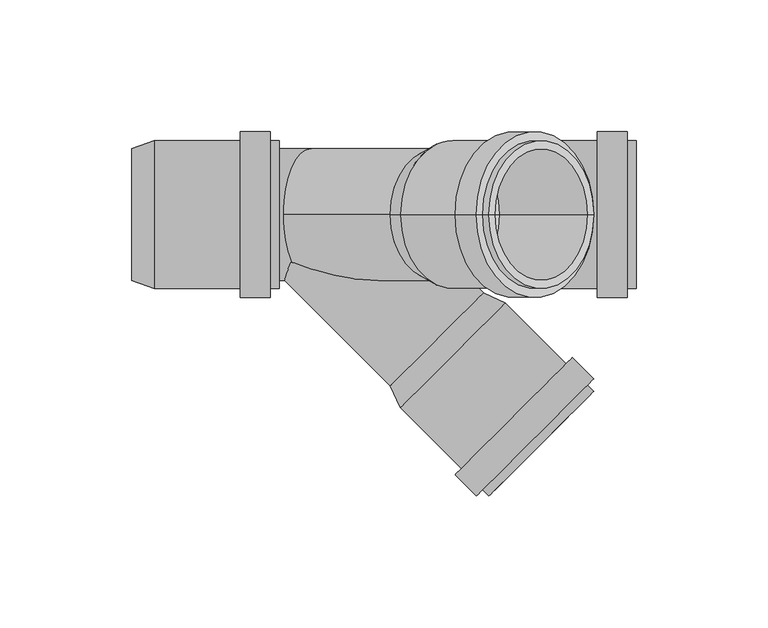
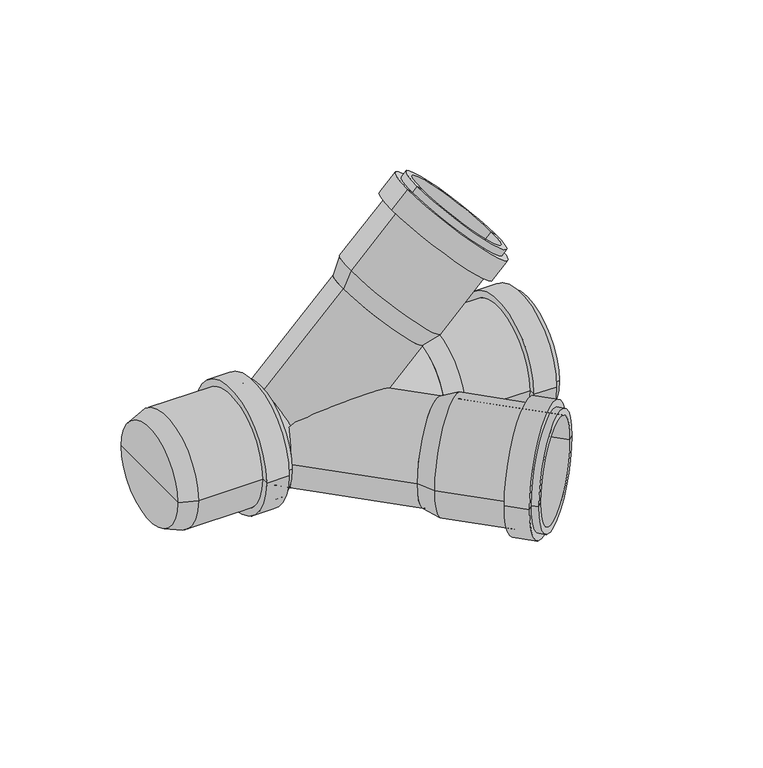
"""IFC4 building model written with IfcOpenShell, lengths in millimetres: pipe fitting geometry, pf_HTED : pf_HTED."""

from ifc_helpers import new_model, si_unit, point, frame, origin, origin_2d, place, context, project, spatial, polyline, circle_curve, trimmed, segment, composite_curve, outline, extrude, source, transform, mapped, element, save
from ifc_brep_helpers import plane_surface, cylinder_surface, revolved_surface, advanced_brep


def pipe_fitting_739406a7(model_context):
    return source(origin(), model_context, "Body", "SolidModel", [
        advanced_brep(
        [(65.1245345, 0.0, 29.7691955), (29.7691955, 0.0, 65.1245345), (33.5875721, 0.0, 73.3269732), (73.3269732, 0.0, 33.5875721), (47.446865, 0.0, 47.446865), (106.9145453, 0.0, 67.1751442), (67.1751442, 0.0, 106.9145453), (69.3671752, 0.0, 104.7225143), (104.7225143, 0.0, 69.3671752), (104.5103823, 0.0, 64.7709812), (64.7709812, 0.0, 104.5103823), (106.9145453, 0.0, 62.3668181), (62.3668181, 0.0, 106.9145453), (98.853528, 0.0, 54.3058008), (54.3058008, 0.0, 98.853528), (96.449365, 0.0, 56.7099639), (56.7099639, 0.0, 96.449365), (71.1349422, 0.0, 35.7796031), (35.7796031, 0.0, 71.1349422), (53.4572727, 0.0, 53.4572727)],
        [
            (0, 1, circle_curve(frame((47.446865, 0.0, 47.446865), z_axis=(0.707106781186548, 0.0, 0.7071067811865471), x_axis=(-0.7071067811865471, 0.0, 0.707106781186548)), 25.0)),
            (1, 2),
            (2, 3, circle_curve(frame((53.4572727, 0.0, 53.4572727), z_axis=(-0.707106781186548, 0.0, -0.7071067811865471), x_axis=(-0.7071067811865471, 0.0, 0.707106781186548)), 28.1)),
            (3, 0),
            (1, 0, circle_curve(frame((47.446865, 0.0, 47.446865), z_axis=(0.707106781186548, 0.0, 0.7071067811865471), x_axis=(-0.7071067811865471, 0.0, 0.707106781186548)), 25.0)),
            (3, 2, circle_curve(frame((53.4572727, 0.0, 53.4572727), z_axis=(-0.707106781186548, 0.0, -0.7071067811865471), x_axis=(-0.7071067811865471, 0.0, 0.707106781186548)), 28.1)),
            (4, 1),
            (0, 4),
            (5, 6, circle_curve(frame((87.0448448, 0.0, 87.0448448), z_axis=(0.707106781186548, 0.0, 0.7071067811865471), x_axis=(-0.7071067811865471, 0.0, 0.707106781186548)), 28.1)),
            (6, 7),
            (7, 8, circle_curve(frame((87.0448448, 0.0, 87.0448448), z_axis=(-0.707106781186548, 0.0, -0.7071067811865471), x_axis=(-0.7071067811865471, 0.0, 0.707106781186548)), 25.0)),
            (8, 5),
            (6, 5, circle_curve(frame((87.0448448, 0.0, 87.0448448), z_axis=(0.707106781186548, 0.0, 0.7071067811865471), x_axis=(-0.7071067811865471, 0.0, 0.707106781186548)), 28.1)),
            (8, 7, circle_curve(frame((87.0448448, 0.0, 87.0448448), z_axis=(-0.707106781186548, 0.0, -0.7071067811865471), x_axis=(-0.7071067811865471, 0.0, 0.707106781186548)), 25.0)),
            (9, 10, circle_curve(frame((84.6406817, 0.0, 84.6406817), z_axis=(0.707106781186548, 0.0, 0.7071067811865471), x_axis=(-0.7071067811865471, 0.0, 0.707106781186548)), 28.1)),
            (10, 6),
            (5, 9),
            (10, 9, circle_curve(frame((84.6406817, 0.0, 84.6406817), z_axis=(0.707106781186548, 0.0, 0.7071067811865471), x_axis=(-0.7071067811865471, 0.0, 0.707106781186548)), 28.1)),
            (11, 12, circle_curve(frame((84.6406817, 0.0, 84.6406817), z_axis=(0.707106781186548, 0.0, 0.7071067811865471), x_axis=(-0.7071067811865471, 0.0, 0.707106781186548)), 31.5)),
            (12, 10),
            (9, 11),
            (12, 11, circle_curve(frame((84.6406817, 0.0, 84.6406817), z_axis=(0.707106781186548, 0.0, 0.7071067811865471), x_axis=(-0.7071067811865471, 0.0, 0.707106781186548)), 31.5)),
            (13, 14, circle_curve(frame((76.5796644, 0.0, 76.5796644), z_axis=(0.707106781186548, 0.0, 0.7071067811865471), x_axis=(-0.7071067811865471, 0.0, 0.707106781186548)), 31.5)),
            (14, 12),
            (11, 13),
            (14, 13, circle_curve(frame((76.5796644, 0.0, 76.5796644), z_axis=(0.707106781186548, 0.0, 0.7071067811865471), x_axis=(-0.7071067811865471, 0.0, 0.707106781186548)), 31.5)),
            (15, 16, circle_curve(frame((76.5796644, 0.0, 76.5796644), z_axis=(0.707106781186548, 0.0, 0.7071067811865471), x_axis=(-0.7071067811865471, 0.0, 0.707106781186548)), 28.1)),
            (16, 14),
            (13, 15),
            (16, 15, circle_curve(frame((76.5796644, 0.0, 76.5796644), z_axis=(0.707106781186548, 0.0, 0.7071067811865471), x_axis=(-0.7071067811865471, 0.0, 0.707106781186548)), 28.1)),
            (2, 16),
            (15, 3),
            (17, 18, circle_curve(frame((53.4572727, 0.0, 53.4572727), z_axis=(0.707106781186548, 0.0, 0.7071067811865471), x_axis=(-0.7071067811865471, 0.0, 0.707106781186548)), 25.0)),
            (18, 19),
            (19, 17),
            (18, 17, circle_curve(frame((53.4572727, 0.0, 53.4572727), z_axis=(0.707106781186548, 0.0, 0.7071067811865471), x_axis=(-0.7071067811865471, 0.0, 0.707106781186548)), 25.0)),
            (7, 18),
            (17, 8),
        ],
        [
            revolved_surface(polyline([(33.5875721, 0.0, 73.3269732), (29.7691955, 0.0, 65.1245345)]), (47.446865, 0.0, 47.446865), (-0.707106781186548, 0.0, -0.7071067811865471)),
            plane_surface(frame((47.446865, 0.0, 47.446865), z_axis=(-0.707106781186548, 0.0, -0.7071067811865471), x_axis=(-0.7071067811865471, 0.0, 0.707106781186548))),
            plane_surface(frame((87.0448448, 0.0, 87.0448448), z_axis=(0.707106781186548, 0.0, 0.7071067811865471), x_axis=(-0.7071067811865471, 0.0, 0.707106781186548))),
            cylinder_surface(frame((47.446865, 0.0, 47.446865), z_axis=(-0.707106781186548, 0.0, -0.7071067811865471), x_axis=(-0.7071067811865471, 0.0, 0.707106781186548)), 28.1),
            plane_surface(frame((84.6406817, 0.0, 84.6406817), z_axis=(0.707106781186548, 0.0, 0.7071067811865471), x_axis=(-0.7071067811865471, 0.0, 0.707106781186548))),
            cylinder_surface(frame((47.446865, 0.0, 47.446865), z_axis=(-0.707106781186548, 0.0, -0.7071067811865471), x_axis=(-0.7071067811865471, 0.0, 0.707106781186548)), 31.5),
            plane_surface(frame((76.5796644, 0.0, 76.5796644), z_axis=(-0.707106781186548, 0.0, -0.7071067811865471), x_axis=(-0.7071067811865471, 0.0, 0.707106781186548))),
            plane_surface(frame((53.4572727, 0.0, 53.4572727), z_axis=(0.707106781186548, 0.0, 0.7071067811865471), x_axis=(-0.7071067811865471, 0.0, 0.707106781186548))),
            revolved_surface(polyline([(35.77960312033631, 0.0, 71.13494217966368), (69.36717527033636, 0.0, 104.72251432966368)]), (47.446865, 0.0, 47.446865), (-0.707106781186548, 0.0, -0.7071067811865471)),
        ],
        [
            (0, [[1, 2, 3, 4]]),
            (0, [[5, -4, 6, -2]]),
            (1, [[7, -1, 8]]),
            (1, [[-8, -5, -7]]),
            (2, [[9, 10, 11, 12]]),
            (2, [[13, -12, 14, -10]]),
            (3, [[15, 16, -9, 17]]),
            (3, [[18, -17, -13, -16]]),
            (4, [[19, 20, -15, 21]]),
            (4, [[22, -21, -18, -20]]),
            (5, [[23, 24, -19, 25]]),
            (5, [[26, -25, -22, -24]]),
            (6, [[27, 28, -23, 29]]),
            (6, [[30, -29, -26, -28]]),
            (3, [[-3, 31, -27, 32]]),
            (3, [[-6, -32, -30, -31]]),
            (7, [[33, 34, 35]]),
            (7, [[36, -35, -34]]),
            (8, [[-11, 37, -33, 38]]),
            (8, [[-14, -38, -36, -37]]),
        ],
    ),
        advanced_brep(
        [(29.7691955, -65.1245345, 0.0), (65.1245345, -29.7691955, 0.0), (73.3269732, -33.5875721, 0.0), (33.5875721, -73.3269732, 0.0), (47.446865, -47.446865, 0.0), (67.1751442, -106.9145453, 0.0), (106.9145453, -67.1751442, 0.0), (104.7225143, -69.3671752, 0.0), (69.3671752, -104.7225143, 0.0), (64.7709812, -104.5103823, 0.0), (104.5103823, -64.7709812, 0.0), (62.3668181, -106.9145453, 0.0), (106.9145453, -62.3668181, 0.0), (54.3058008, -98.853528, 0.0), (98.853528, -54.3058008, 0.0), (56.7099639, -96.449365, 0.0), (96.449365, -56.7099639, 0.0), (35.7796031, -71.1349422, 0.0), (71.1349422, -35.7796031, 0.0), (53.4572727, -53.4572727, 0.0)],
        [
            (0, 1, circle_curve(frame((47.446865, -47.446865, 0.0), z_axis=(0.7071067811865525, -0.7071067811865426, 0.0), x_axis=(0.7071067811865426, 0.7071067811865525, 0.0)), 25.0)),
            (1, 2),
            (2, 3, circle_curve(frame((53.4572727, -53.4572727, 0.0), z_axis=(-0.7071067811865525, 0.7071067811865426, 0.0), x_axis=(0.7071067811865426, 0.7071067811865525, 0.0)), 28.1)),
            (3, 0),
            (1, 0, circle_curve(frame((47.446865, -47.446865, 0.0), z_axis=(0.7071067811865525, -0.7071067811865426, 0.0), x_axis=(0.7071067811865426, 0.7071067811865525, 0.0)), 25.0)),
            (3, 2, circle_curve(frame((53.4572727, -53.4572727, 0.0), z_axis=(-0.7071067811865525, 0.7071067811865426, 0.0), x_axis=(0.7071067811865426, 0.7071067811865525, 0.0)), 28.1)),
            (4, 1),
            (0, 4),
            (5, 6, circle_curve(frame((87.0448448, -87.0448448, 0.0), z_axis=(0.7071067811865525, -0.7071067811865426, 0.0), x_axis=(0.7071067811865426, 0.7071067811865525, 0.0)), 28.1)),
            (6, 7),
            (7, 8, circle_curve(frame((87.0448448, -87.0448448, 0.0), z_axis=(-0.7071067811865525, 0.7071067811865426, 0.0), x_axis=(0.7071067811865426, 0.7071067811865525, 0.0)), 25.0)),
            (8, 5),
            (6, 5, circle_curve(frame((87.0448448, -87.0448448, 0.0), z_axis=(0.7071067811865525, -0.7071067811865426, 0.0), x_axis=(0.7071067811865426, 0.7071067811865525, 0.0)), 28.1)),
            (8, 7, circle_curve(frame((87.0448448, -87.0448448, 0.0), z_axis=(-0.7071067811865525, 0.7071067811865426, 0.0), x_axis=(0.7071067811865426, 0.7071067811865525, 0.0)), 25.0)),
            (9, 10, circle_curve(frame((84.6406817, -84.6406817, 0.0), z_axis=(0.7071067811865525, -0.7071067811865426, 0.0), x_axis=(0.7071067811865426, 0.7071067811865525, 0.0)), 28.1)),
            (10, 6),
            (5, 9),
            (10, 9, circle_curve(frame((84.6406817, -84.6406817, 0.0), z_axis=(0.7071067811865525, -0.7071067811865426, 0.0), x_axis=(0.7071067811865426, 0.7071067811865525, 0.0)), 28.1)),
            (11, 12, circle_curve(frame((84.6406817, -84.6406817, 0.0), z_axis=(0.7071067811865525, -0.7071067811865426, 0.0), x_axis=(0.7071067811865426, 0.7071067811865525, 0.0)), 31.5)),
            (12, 10),
            (9, 11),
            (12, 11, circle_curve(frame((84.6406817, -84.6406817, 0.0), z_axis=(0.7071067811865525, -0.7071067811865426, 0.0), x_axis=(0.7071067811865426, 0.7071067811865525, 0.0)), 31.5)),
            (13, 14, circle_curve(frame((76.5796644, -76.5796644, 0.0), z_axis=(0.7071067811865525, -0.7071067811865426, 0.0), x_axis=(0.7071067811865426, 0.7071067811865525, 0.0)), 31.5)),
            (14, 12),
            (11, 13),
            (14, 13, circle_curve(frame((76.5796644, -76.5796644, 0.0), z_axis=(0.7071067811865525, -0.7071067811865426, 0.0), x_axis=(0.7071067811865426, 0.7071067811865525, 0.0)), 31.5)),
            (15, 16, circle_curve(frame((76.5796644, -76.5796644, 0.0), z_axis=(0.7071067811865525, -0.7071067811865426, 0.0), x_axis=(0.7071067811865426, 0.7071067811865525, 0.0)), 28.1)),
            (16, 14),
            (13, 15),
            (16, 15, circle_curve(frame((76.5796644, -76.5796644, 0.0), z_axis=(0.7071067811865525, -0.7071067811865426, 0.0), x_axis=(0.7071067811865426, 0.7071067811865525, 0.0)), 28.1)),
            (2, 16),
            (15, 3),
            (17, 18, circle_curve(frame((53.4572727, -53.4572727, 0.0), z_axis=(0.7071067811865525, -0.7071067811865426, 0.0), x_axis=(0.7071067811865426, 0.7071067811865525, 0.0)), 25.0)),
            (18, 19),
            (19, 17),
            (18, 17, circle_curve(frame((53.4572727, -53.4572727, 0.0), z_axis=(0.7071067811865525, -0.7071067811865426, 0.0), x_axis=(0.7071067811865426, 0.7071067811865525, 0.0)), 25.0)),
            (7, 18),
            (17, 8),
        ],
        [
            revolved_surface(polyline([(73.3269732, -33.5875721, 0.0), (65.1245345, -29.7691955, 0.0)]), (47.446865, -47.446865, 0.0), (-0.7071067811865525, 0.7071067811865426, 0.0)),
            plane_surface(frame((47.446865, -47.446865, 0.0), z_axis=(-0.7071067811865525, 0.7071067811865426, 0.0), x_axis=(0.7071067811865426, 0.7071067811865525, 0.0))),
            plane_surface(frame((87.0448448, -87.0448448, 0.0), z_axis=(0.7071067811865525, -0.7071067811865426, 0.0), x_axis=(0.7071067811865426, 0.7071067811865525, 0.0))),
            cylinder_surface(frame((47.446865, -47.446865, 0.0), z_axis=(-0.7071067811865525, 0.7071067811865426, 0.0), x_axis=(0.7071067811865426, 0.7071067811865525, 0.0)), 28.1),
            plane_surface(frame((84.6406817, -84.6406817, 0.0), z_axis=(0.7071067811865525, -0.7071067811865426, 0.0), x_axis=(0.7071067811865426, 0.7071067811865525, 0.0))),
            cylinder_surface(frame((47.446865, -47.446865, 0.0), z_axis=(-0.7071067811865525, 0.7071067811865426, 0.0), x_axis=(0.7071067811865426, 0.7071067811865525, 0.0)), 31.5),
            plane_surface(frame((76.5796644, -76.5796644, 0.0), z_axis=(-0.7071067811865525, 0.7071067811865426, 0.0), x_axis=(0.7071067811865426, 0.7071067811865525, 0.0))),
            plane_surface(frame((53.4572727, -53.4572727, 0.0), z_axis=(0.7071067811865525, -0.7071067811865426, 0.0), x_axis=(0.7071067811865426, 0.7071067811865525, 0.0))),
            revolved_surface(polyline([(71.13494217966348, -35.77960312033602, 0.0), (104.72251432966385, -69.36717527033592, 0.0)]), (47.446865, -47.446865, 0.0), (-0.7071067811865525, 0.7071067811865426, 0.0)),
        ],
        [
            (0, [[1, 2, 3, 4]]),
            (0, [[5, -4, 6, -2]]),
            (1, [[7, -1, 8]]),
            (1, [[-8, -5, -7]]),
            (2, [[9, 10, 11, 12]]),
            (2, [[13, -12, 14, -10]]),
            (3, [[15, 16, -9, 17]]),
            (3, [[18, -17, -13, -16]]),
            (4, [[19, 20, -15, 21]]),
            (4, [[22, -21, -18, -20]]),
            (5, [[23, 24, -19, 25]]),
            (5, [[26, -25, -22, -24]]),
            (6, [[27, 28, -23, 29]]),
            (6, [[30, -29, -26, -28]]),
            (3, [[-3, 31, -27, 32]]),
            (3, [[-6, -32, -30, -31]]),
            (7, [[33, 34, 35]]),
            (7, [[36, -35, -34]]),
            (8, [[-11, 37, -33, 38]]),
            (8, [[-14, -38, -36, -37]]),
        ],
    ),
        advanced_brep(
        [(67.1, -25.0, 0.0), (67.1, 25.0, 0.0), (75.6, 28.1, 0.0), (75.6, -28.1, 0.0), (67.1, 0.0, 0.0), (123.1, -28.1, 0.0), (123.1, 28.1, 0.0), (123.1, 25.0, 0.0), (123.1, -25.0, 0.0), (119.7, -28.1, 0.0), (119.7, 28.1, 0.0), (119.7, -31.5, 0.0), (119.7, 31.5, 0.0), (108.3, -31.5, 0.0), (108.3, 31.5, 0.0), (108.3, -28.1, 0.0), (108.3, 28.1, 0.0), (75.6, -25.0, 0.0), (75.6, 25.0, 0.0), (75.6, 0.0, 0.0)],
        [
            (0, 1, circle_curve(frame((67.1, 0.0, 0.0), z_axis=(1.0, 0.0, 0.0), x_axis=(0.0, 1.0, 0.0)), 25.0)),
            (1, 2),
            (2, 3, circle_curve(frame((75.6, 0.0, 0.0), z_axis=(-1.0, 0.0, 0.0), x_axis=(0.0, 1.0, 0.0)), 28.1)),
            (3, 0),
            (1, 0, circle_curve(frame((67.1, 0.0, 0.0), z_axis=(1.0, 0.0, 0.0), x_axis=(0.0, 1.0, 0.0)), 25.0)),
            (3, 2, circle_curve(frame((75.6, 0.0, 0.0), z_axis=(-1.0, 0.0, 0.0), x_axis=(0.0, 1.0, 0.0)), 28.1)),
            (4, 1),
            (0, 4),
            (5, 6, circle_curve(frame((123.1, 0.0, 0.0), z_axis=(1.0, 0.0, 0.0), x_axis=(0.0, 1.0, 0.0)), 28.1)),
            (6, 7),
            (7, 8, circle_curve(frame((123.1, 0.0, 0.0), z_axis=(-1.0, 0.0, 0.0), x_axis=(0.0, 1.0, 0.0)), 25.0)),
            (8, 5),
            (6, 5, circle_curve(frame((123.1, 0.0, 0.0), z_axis=(1.0, 0.0, 0.0), x_axis=(0.0, 1.0, 0.0)), 28.1)),
            (8, 7, circle_curve(frame((123.1, 0.0, 0.0), z_axis=(-1.0, 0.0, 0.0), x_axis=(0.0, 1.0, 0.0)), 25.0)),
            (9, 10, circle_curve(frame((119.7, 0.0, 0.0), z_axis=(1.0, 0.0, 0.0), x_axis=(0.0, 1.0, 0.0)), 28.1)),
            (10, 6),
            (5, 9),
            (10, 9, circle_curve(frame((119.7, 0.0, 0.0), z_axis=(1.0, 0.0, 0.0), x_axis=(0.0, 1.0, 0.0)), 28.1)),
            (11, 12, circle_curve(frame((119.7, 0.0, 0.0), z_axis=(1.0, 0.0, 0.0), x_axis=(0.0, 1.0, 0.0)), 31.5)),
            (12, 10),
            (9, 11),
            (12, 11, circle_curve(frame((119.7, 0.0, 0.0), z_axis=(1.0, 0.0, 0.0), x_axis=(0.0, 1.0, 0.0)), 31.5)),
            (13, 14, circle_curve(frame((108.3, 0.0, 0.0), z_axis=(1.0, 0.0, 0.0), x_axis=(0.0, 1.0, 0.0)), 31.5)),
            (14, 12),
            (11, 13),
            (14, 13, circle_curve(frame((108.3, 0.0, 0.0), z_axis=(1.0, 0.0, 0.0), x_axis=(0.0, 1.0, 0.0)), 31.5)),
            (15, 16, circle_curve(frame((108.3, 0.0, 0.0), z_axis=(1.0, 0.0, 0.0), x_axis=(0.0, 1.0, 0.0)), 28.1)),
            (16, 14),
            (13, 15),
            (16, 15, circle_curve(frame((108.3, 0.0, 0.0), z_axis=(1.0, 0.0, 0.0), x_axis=(0.0, 1.0, 0.0)), 28.1)),
            (2, 16),
            (15, 3),
            (17, 18, circle_curve(frame((75.6, 0.0, 0.0), z_axis=(1.0, 0.0, 0.0), x_axis=(0.0, 1.0, 0.0)), 25.0)),
            (18, 19),
            (19, 17),
            (18, 17, circle_curve(frame((75.6, 0.0, 0.0), z_axis=(1.0, 0.0, 0.0), x_axis=(0.0, 1.0, 0.0)), 25.0)),
            (7, 18),
            (17, 8),
        ],
        [
            revolved_surface(polyline([(75.6, 28.1, 0.0), (67.1, 25.0, 0.0)]), (67.1, 0.0, 0.0), (-1.0, 0.0, 0.0)),
            plane_surface(frame((67.1, 0.0, 0.0), z_axis=(-1.0, 0.0, 0.0), x_axis=(0.0, 1.0, 0.0))),
            plane_surface(frame((123.1, 0.0, 0.0), z_axis=(1.0, 0.0, 0.0), x_axis=(0.0, 1.0, 0.0))),
            cylinder_surface(frame((67.1, 0.0, 0.0), z_axis=(-1.0, 0.0, 0.0), x_axis=(0.0, 1.0, 0.0)), 28.1),
            plane_surface(frame((119.7, 0.0, 0.0), z_axis=(1.0, 0.0, 0.0), x_axis=(0.0, 1.0, 0.0))),
            cylinder_surface(frame((67.1, 0.0, 0.0), z_axis=(-1.0, 0.0, 0.0), x_axis=(0.0, 1.0, 0.0)), 31.5),
            plane_surface(frame((108.3, 0.0, 0.0), z_axis=(-1.0, 0.0, 0.0), x_axis=(0.0, 1.0, 0.0))),
            plane_surface(frame((75.6, 0.0, 0.0), z_axis=(1.0, 0.0, 0.0), x_axis=(0.0, 1.0, 0.0))),
            revolved_surface(polyline([(75.6, 25.0, 0.0), (123.1, 25.0, 0.0)]), (67.1, 0.0, 0.0), (-1.0, 0.0, 0.0)),
        ],
        [
            (0, [[1, 2, 3, 4]]),
            (0, [[5, -4, 6, -2]]),
            (1, [[7, -1, 8]]),
            (1, [[-8, -5, -7]]),
            (2, [[9, 10, 11, 12]]),
            (2, [[13, -12, 14, -10]]),
            (3, [[15, 16, -9, 17]]),
            (3, [[18, -17, -13, -16]]),
            (4, [[19, 20, -15, 21]]),
            (4, [[22, -21, -18, -20]]),
            (5, [[23, 24, -19, 25]]),
            (5, [[26, -25, -22, -24]]),
            (6, [[27, 28, -23, 29]]),
            (6, [[30, -29, -26, -28]]),
            (3, [[-3, 31, -27, 32]]),
            (3, [[-6, -32, -30, -31]]),
            (7, [[33, 34, 35]]),
            (7, [[36, -35, -34]]),
            (8, [[-11, 37, -33, 38]]),
            (8, [[-14, -38, -36, -37]]),
        ],
    ),
        advanced_brep(
        [(-68.4, -25.0, 0.0), (-68.4, 25.0, 0.0), (-59.9, 28.1, 0.0), (-59.9, -28.1, 0.0), (-68.4, 0.0, 0.0), (-12.4, -28.1, 0.0), (-12.4, 28.1, 0.0), (-12.4, 25.0, 0.0), (-12.4, -25.0, 0.0), (-15.8, -28.1, 0.0), (-15.8, 28.1, 0.0), (-15.8, -31.5, 0.0), (-15.8, 31.5, 0.0), (-27.2, -31.5, 0.0), (-27.2, 31.5, 0.0), (-27.2, -28.1, 0.0), (-27.2, 28.1, 0.0), (-59.9, -25.0, 0.0), (-59.9, 25.0, 0.0), (-59.9, 0.0, 0.0)],
        [
            (0, 1, circle_curve(frame((-68.4, 0.0, 0.0), z_axis=(1.0, 0.0, 0.0), x_axis=(0.0, 1.0, 0.0)), 25.0)),
            (1, 2),
            (2, 3, circle_curve(frame((-59.9, 0.0, 0.0), z_axis=(-1.0, 0.0, 0.0), x_axis=(0.0, 1.0, 0.0)), 28.1)),
            (3, 0),
            (1, 0, circle_curve(frame((-68.4, 0.0, 0.0), z_axis=(1.0, 0.0, 0.0), x_axis=(0.0, 1.0, 0.0)), 25.0)),
            (3, 2, circle_curve(frame((-59.9, 0.0, 0.0), z_axis=(-1.0, 0.0, 0.0), x_axis=(0.0, 1.0, 0.0)), 28.1)),
            (4, 1),
            (0, 4),
            (5, 6, circle_curve(frame((-12.4, 0.0, 0.0), z_axis=(1.0, 0.0, 0.0), x_axis=(0.0, 1.0, 0.0)), 28.1)),
            (6, 7),
            (7, 8, circle_curve(frame((-12.4, 0.0, 0.0), z_axis=(-1.0, 0.0, 0.0), x_axis=(0.0, 1.0, 0.0)), 25.0)),
            (8, 5),
            (6, 5, circle_curve(frame((-12.4, 0.0, 0.0), z_axis=(1.0, 0.0, 0.0), x_axis=(0.0, 1.0, 0.0)), 28.1)),
            (8, 7, circle_curve(frame((-12.4, 0.0, 0.0), z_axis=(-1.0, 0.0, 0.0), x_axis=(0.0, 1.0, 0.0)), 25.0)),
            (9, 10, circle_curve(frame((-15.8, 0.0, 0.0), z_axis=(1.0, 0.0, 0.0), x_axis=(0.0, 1.0, 0.0)), 28.1)),
            (10, 6),
            (5, 9),
            (10, 9, circle_curve(frame((-15.8, 0.0, 0.0), z_axis=(1.0, 0.0, 0.0), x_axis=(0.0, 1.0, 0.0)), 28.1)),
            (11, 12, circle_curve(frame((-15.8, 0.0, 0.0), z_axis=(1.0, 0.0, 0.0), x_axis=(0.0, 1.0, 0.0)), 31.5)),
            (12, 10),
            (9, 11),
            (12, 11, circle_curve(frame((-15.8, 0.0, 0.0), z_axis=(1.0, 0.0, 0.0), x_axis=(0.0, 1.0, 0.0)), 31.5)),
            (13, 14, circle_curve(frame((-27.2, 0.0, 0.0), z_axis=(1.0, 0.0, 0.0), x_axis=(0.0, 1.0, 0.0)), 31.5)),
            (14, 12),
            (11, 13),
            (14, 13, circle_curve(frame((-27.2, 0.0, 0.0), z_axis=(1.0, 0.0, 0.0), x_axis=(0.0, 1.0, 0.0)), 31.5)),
            (15, 16, circle_curve(frame((-27.2, 0.0, 0.0), z_axis=(1.0, 0.0, 0.0), x_axis=(0.0, 1.0, 0.0)), 28.1)),
            (16, 14),
            (13, 15),
            (16, 15, circle_curve(frame((-27.2, 0.0, 0.0), z_axis=(1.0, 0.0, 0.0), x_axis=(0.0, 1.0, 0.0)), 28.1)),
            (2, 16),
            (15, 3),
            (17, 18, circle_curve(frame((-59.9, 0.0, 0.0), z_axis=(1.0, 0.0, 0.0), x_axis=(0.0, 1.0, 0.0)), 25.0)),
            (18, 19),
            (19, 17),
            (18, 17, circle_curve(frame((-59.9, 0.0, 0.0), z_axis=(1.0, 0.0, 0.0), x_axis=(0.0, 1.0, 0.0)), 25.0)),
            (7, 18),
            (17, 8),
        ],
        [
            revolved_surface(polyline([(-59.9, 28.1, 0.0), (-68.4, 25.0, 0.0)]), (-68.4, 0.0, 0.0), (-1.0, 0.0, 0.0)),
            plane_surface(frame((-68.4, 0.0, 0.0), z_axis=(-1.0, 0.0, 0.0), x_axis=(0.0, 1.0, 0.0))),
            plane_surface(frame((-12.4, 0.0, 0.0), z_axis=(1.0, 0.0, 0.0), x_axis=(0.0, 1.0, 0.0))),
            cylinder_surface(frame((-68.4, 0.0, 0.0), z_axis=(-1.0, 0.0, 0.0), x_axis=(0.0, 1.0, 0.0)), 28.1),
            plane_surface(frame((-15.8, 0.0, 0.0), z_axis=(1.0, 0.0, 0.0), x_axis=(0.0, 1.0, 0.0))),
            cylinder_surface(frame((-68.4, 0.0, 0.0), z_axis=(-1.0, 0.0, 0.0), x_axis=(0.0, 1.0, 0.0)), 31.5),
            plane_surface(frame((-27.2, 0.0, 0.0), z_axis=(-1.0, 0.0, 0.0), x_axis=(0.0, 1.0, 0.0))),
            plane_surface(frame((-59.9, 0.0, 0.0), z_axis=(1.0, 0.0, 0.0), x_axis=(0.0, 1.0, 0.0))),
            revolved_surface(polyline([(-59.9, 25.0, 0.0), (-12.399999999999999, 25.0, 0.0)]), (-68.4, 0.0, 0.0), (-1.0, 0.0, 0.0)),
        ],
        [
            (0, [[1, 2, 3, 4]]),
            (0, [[5, -4, 6, -2]]),
            (1, [[7, -1, 8]]),
            (1, [[-8, -5, -7]]),
            (2, [[9, 10, 11, 12]]),
            (2, [[13, -12, 14, -10]]),
            (3, [[15, 16, -9, 17]]),
            (3, [[18, -17, -13, -16]]),
            (4, [[19, 20, -15, 21]]),
            (4, [[22, -21, -18, -20]]),
            (5, [[23, 24, -19, 25]]),
            (5, [[26, -25, -22, -24]]),
            (6, [[27, 28, -23, 29]]),
            (6, [[30, -29, -26, -28]]),
            (3, [[-3, 31, -27, 32]]),
            (3, [[-6, -32, -30, -31]]),
            (7, [[33, 34, 35]]),
            (7, [[36, -35, -34]]),
            (8, [[-11, 37, -33, 38]]),
            (8, [[-14, -38, -36, -37]]),
        ],
    ),
        extrude(outline(composite_curve([segment(trimmed(circle_curve(origin_2d(), 25.0), [point((0.0, 25.0))], [point((0.0, -25.0))], False, "CARTESIAN"), True, "CONTINUOUS"), segment(trimmed(circle_curve(origin_2d(), 25.0), [point((0.0, -25.0))], [point((0.0, 25.0))], False, "CARTESIAN"), True, "CONTINUOUS")], self_intersect=False)), frame((0.0, 0.0, 0.0), z_axis=(0.7071067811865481, 0.0, 0.707106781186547), x_axis=(0.0, -1.0, 0.0)), (0.0, 0.0, 1.0), 67.1),
        extrude(outline(composite_curve([segment(trimmed(circle_curve(origin_2d(), 25.0), [point((0.0, -25.0))], [point((0.0, 25.0))], False, "CARTESIAN"), True, "CONTINUOUS"), segment(trimmed(circle_curve(origin_2d(), 25.0), [point((0.0, 25.0))], [point((0.0, -25.0))], False, "CARTESIAN"), True, "CONTINUOUS")], self_intersect=False)), frame((47.446865, -47.446865, 0.0), z_axis=(-0.7071067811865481, 0.707106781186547, 0.0), x_axis=(0.0, 0.0, 1.0)), (0.0, 0.0, 1.0), 67.1),
        extrude(outline(composite_curve([segment(trimmed(circle_curve(origin_2d(), 25.0), [point((-25.0, 0.0))], [point((25.0, 0.0))], False, "CARTESIAN"), True, "CONTINUOUS"), segment(trimmed(circle_curve(origin_2d(), 25.0), [point((25.0, 0.0))], [point((-25.0, 0.0))], False, "CARTESIAN"), True, "CONTINUOUS")], self_intersect=False)), frame((-59.9, 0.0, 0.0), z_axis=(1.0, 0.0, 0.0), x_axis=(0.0, 1.0, 0.0)), (0.0, 0.0, 1.0), 127.0),
    ])


if __name__ == "__main__":
    model = new_model("IFC4")
    model_context = context("Model", 3, world=origin())
    ifc_project = project(units=[si_unit("LENGTHUNIT", "METRE", prefix="MILLI")], contexts=[model_context])
    site = spatial("IfcSite", under=ifc_project)
    building = spatial("IfcBuilding", under=site)
    placement = place(None, origin())
    pipe_fitting_shape = pipe_fitting_739406a7(model_context)
    element("IfcPipeFitting", 1, ObjectType="pf_HTED : pf_HTED", at=placement, inside=building, context=model_context, shape_type="MappedRepresentation", body=[
        mapped(pipe_fitting_shape, transform((0.0, 0.0, 0.0), x_axis=(1.0, 0.0, 0.0), y_axis=(0.0, 1.0, 0.0), z_axis=(0.0, 0.0, 1.0))),
    ])
    save(model, "model.ifc")
